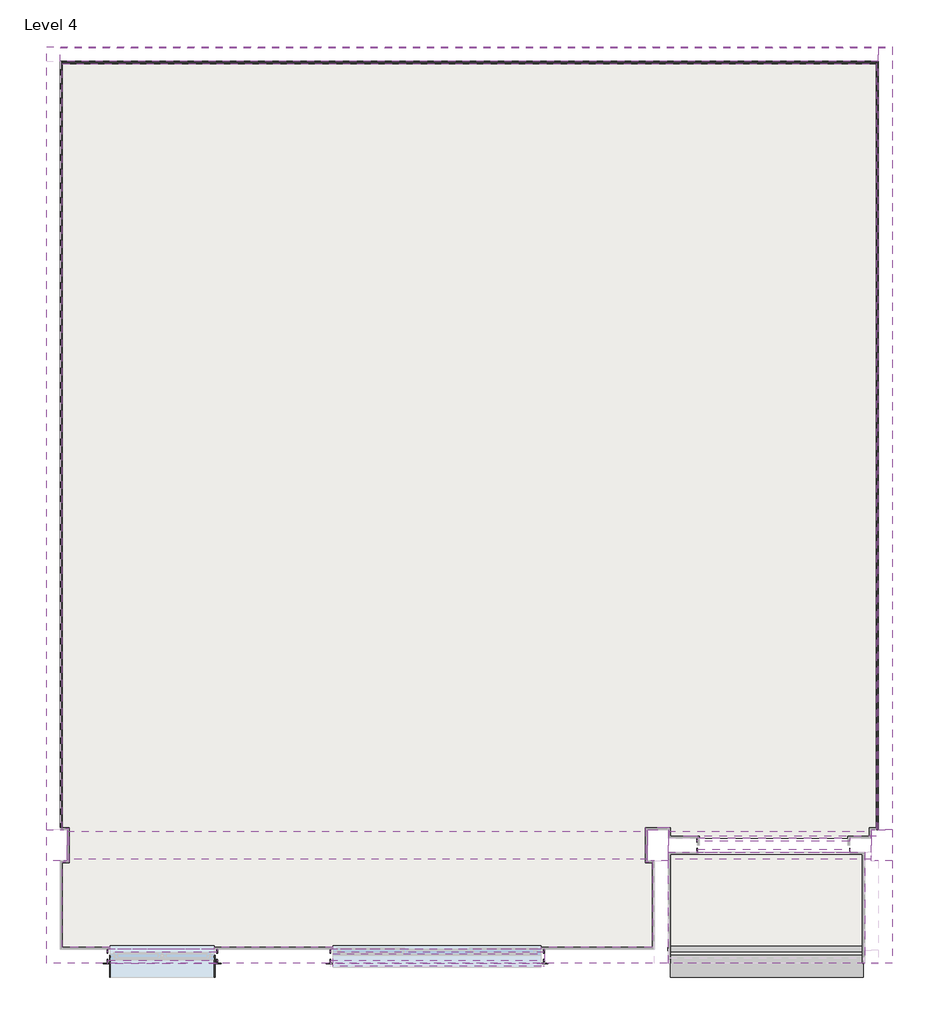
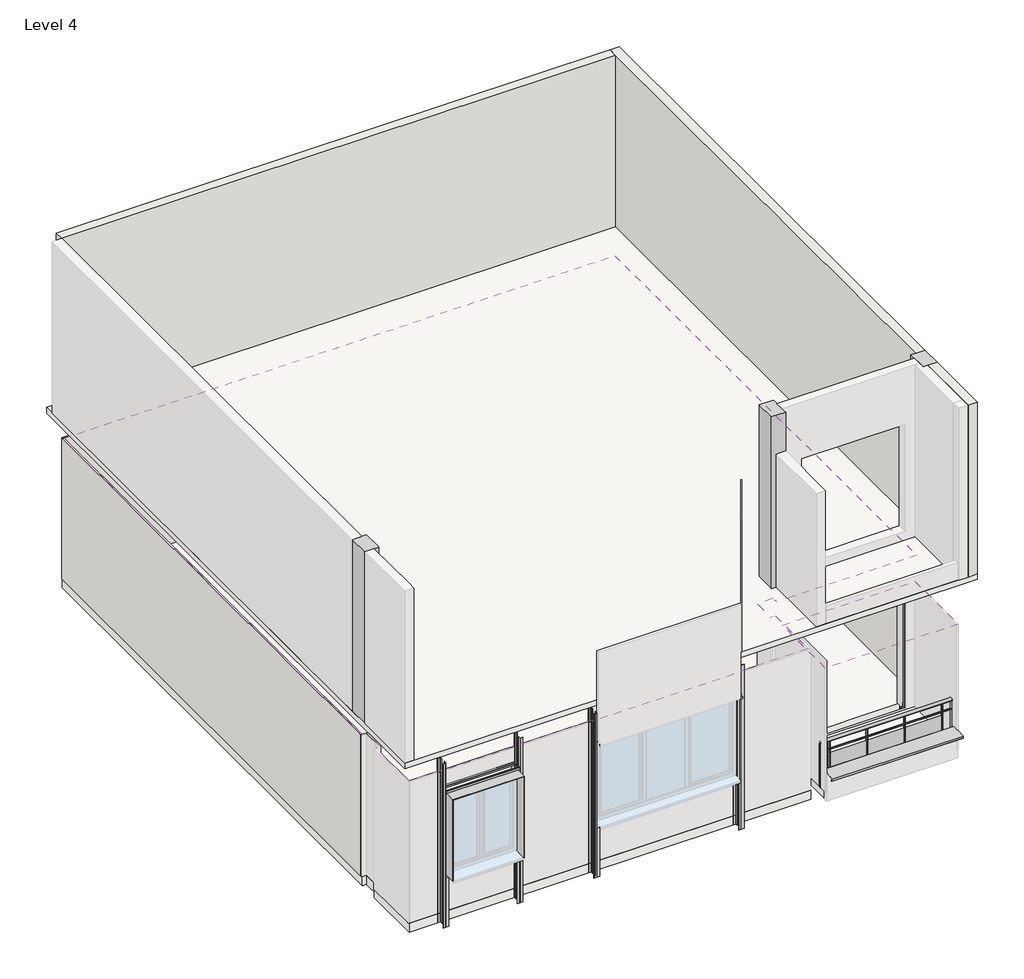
# One storey, part 2 of 2: 19 beams, 5 walls, 4 slabs, 3 columns, 2 coverings, 1 proxy, 1 railing.
"""IFC4 building model written with IfcOpenShell, lengths in millimetres."""

from ifc_helpers import new_model, si_unit, point, frame, origin, place, context, project, spatial, polyline, ellipse_curve, trimmed, outline, extrude, faceted_brep, transform, mapped, element, save
from ifc_brep_helpers import plane_surface, extruded_surface, advanced_brep
from components import bz1_l_profile_t01_17f12a1d, bz1_l_profile_t01_85f23635, bz1_l_profile_t01_c9825e95, bz1_l_profile_t01_ad5e237f, bz1_l_profile_t01_9d23476b, bz1_l_profile_t01_5d592bfc, bz1_wall_post_200_end_863f2b4e, bz1_wall_post_200_end_6934bf96, bz1_wall_post_200_end_fdf059dd, win_flashing1_win_flashing_b7f60e38

model = new_model("IFC4")

# Units and contexts
model_context = context("Model", 3, world=origin())
ifc_project = project(units=[si_unit("LENGTHUNIT", "METRE", prefix="MILLI")], contexts=[model_context])

# Site, building, storey
site = spatial("IfcSite", under=ifc_project)
building = spatial("IfcBuilding", under=site)
storey = spatial("IfcBuildingStorey", under=building, Name="Level 4", Elevation=12000.0)

# Beams
placement = place(None, origin())
bz1_l_profile_t01_shape = bz1_l_profile_t01_17f12a1d(model_context)
element("IfcBeam", 1, ObjectType="BZ1_L Profile : T01", at=placement, inside=storey, context=model_context, shape_type="MappedRepresentation", body=[
    mapped(bz1_l_profile_t01_shape, transform((2964.4333411, -5500.9647185, 14810.0), x_axis=(-1.0, 0.0, 0.0), y_axis=(0.0, 0.0, 1.0), z_axis=(0.0, 1.0, 0.0))),
])
bz1_l_profile_t01_2_shape = bz1_l_profile_t01_85f23635(model_context)
element("IfcBeam", 2, ObjectType="BZ1_L Profile : T01", at=placement, inside=storey, context=model_context, shape_type="MappedRepresentation", body=[
    mapped(bz1_l_profile_t01_2_shape, transform((-115.5666589, -5700.9647185, 14810.0), x_axis=(1.0, 0.0, 0.0), y_axis=(0.0, -1.0, 0.0), z_axis=(0.0, 0.0, -1.0))),
])
bz1_l_profile_t01_3_shape = bz1_l_profile_t01_c9825e95(model_context)
element("IfcBeam", 3, ObjectType="BZ1_L Profile : T01", at=placement, inside=storey, context=model_context, shape_type="MappedRepresentation", body=[
    mapped(bz1_l_profile_t01_3_shape, transform((-3330.5666589, -5700.9647185, 14810.0), x_axis=(1.0, 0.0, 0.0), y_axis=(0.0, -1.0, 0.0), z_axis=(0.0, 0.0, -1.0))),
])
bz1_l_profile_t01_4_shape = bz1_l_profile_t01_ad5e237f(model_context)
element("IfcBeam", 4, ObjectType="BZ1_L Profile : T01", at=placement, inside=storey, context=model_context, shape_type="MappedRepresentation", body=[
    mapped(bz1_l_profile_t01_4_shape, transform((-3330.5666589, -5500.9647185, 14810.0), x_axis=(1.0, 0.0, 0.0), y_axis=(0.0, -1.0, 0.0), z_axis=(0.0, 0.0, -1.0))),
])
bz1_l_profile_t01_5_shape = bz1_l_profile_t01_9d23476b(model_context)
element("IfcBeam", 5, ObjectType="BZ1_L Profile : T01", at=placement, inside=storey, context=model_context, shape_type="MappedRepresentation", body=[
    mapped(bz1_l_profile_t01_5_shape, transform((5174.4333411, -4100.9647185, 14405.0), x_axis=(1.0, 0.0, 0.0), y_axis=(0.0, -1.0, 0.0), z_axis=(0.0, 0.0, -1.0))),
])
bz1_l_profile_t01_6_shape = bz1_l_profile_t01_5d592bfc(model_context)
element("IfcBeam", 6, ObjectType="BZ1_L Profile : T01", at=placement, inside=storey, context=model_context, shape_type="MappedRepresentation", body=[
    mapped(bz1_l_profile_t01_6_shape, transform((5174.4333411, -3900.9647185, 14405.0), x_axis=(1.0, 0.0, 0.0), y_axis=(0.0, -1.0, 0.0), z_axis=(0.0, 0.0, -1.0))),
])
bz1_wall_post_200_end_shape = bz1_wall_post_200_end_863f2b4e(model_context)
element("IfcBeam", 7, ObjectType="BZ1_Wall post : 200 END", at=placement, inside=storey, context=model_context, shape_type="MappedRepresentation", body=[
    mapped(bz1_wall_post_200_end_shape, transform((-1750.5666589, -5600.9647185, 11800.0), x_axis=(1.0, 0.0, 0.0), y_axis=(0.0, 1.0, 0.0), z_axis=(0.0, 0.0, 1.0))),
])
element("IfcBeam", 8, ObjectType="BZ1_Wall post : 200 END", at=placement, inside=storey, context=model_context, shape_type="MappedRepresentation", body=[
    mapped(bz1_wall_post_200_end_shape, transform((-3330.5666589, -5600.9647185, 11800.0), x_axis=(-1.0, 0.0, 0.0), y_axis=(0.0, -1.0, 0.0), z_axis=(0.0, 0.0, 1.0))),
])
element("IfcBeam", 9, ObjectType="BZ1_Wall post : 200 END", at=placement, inside=storey, context=model_context, shape_type="MappedRepresentation", body=[
    mapped(bz1_wall_post_200_end_shape, transform((2964.4333411, -5600.9647185, 11800.0), x_axis=(1.0, 0.0, 0.0), y_axis=(0.0, 1.0, 0.0), z_axis=(0.0, 0.0, 1.0))),
])
element("IfcBeam", 10, ObjectType="BZ1_Wall post : 200 END", at=placement, inside=storey, context=model_context, shape_type="MappedRepresentation", body=[
    mapped(bz1_wall_post_200_end_shape, transform((-115.5666589, -5600.9647185, 11800.0), x_axis=(-1.0, 0.0, 0.0), y_axis=(0.0, -1.0, 0.0), z_axis=(0.0, 0.0, 1.0))),
])
element("IfcBeam", 11, ObjectType="BZ1_Wall post : 200 END", at=placement, inside=storey, context=model_context, shape_type="MappedRepresentation", body=[
    mapped(bz1_wall_post_200_end_shape, transform((5174.4333411, -4000.9647185, 12000.0), x_axis=(-1.0, 0.0, 0.0), y_axis=(0.0, -1.0, 0.0), z_axis=(0.0, 0.0, 1.0))),
])
element("IfcBeam", 12, ObjectType="BZ1_Wall post : 200 END", at=placement, inside=storey, context=model_context, shape_type="MappedRepresentation", body=[
    mapped(bz1_wall_post_200_end_shape, transform((7374.4333411, -4000.9647185, 11800.0), x_axis=(1.0, 0.0, 0.0), y_axis=(0.0, 1.0, 0.0), z_axis=(0.0, 0.0, 1.0))),
])
bz1_wall_post_200_end_2_shape = bz1_wall_post_200_end_6934bf96(model_context)
element("IfcBeam", 13, ObjectType="BZ1_Wall post : 200 END", at=placement, inside=storey, context=model_context, shape_type="MappedRepresentation", body=[
    mapped(bz1_wall_post_200_end_2_shape, transform((-115.5666589, -5600.9647185, 11800.0), x_axis=(1.0, 0.0, 0.0), y_axis=(0.0, 1.0, 0.0), z_axis=(0.0, 0.0, 1.0))),
])
element("IfcBeam", 14, ObjectType="BZ1_Wall post : 200 END", at=placement, inside=storey, context=model_context, shape_type="MappedRepresentation", body=[
    mapped(bz1_wall_post_200_end_2_shape, transform((-3330.5666589, -5600.9647185, 11800.0), x_axis=(1.0, 0.0, 0.0), y_axis=(0.0, 1.0, 0.0), z_axis=(0.0, 0.0, 1.0))),
])
bz1_wall_post_200_end_3_shape = bz1_wall_post_200_end_fdf059dd(model_context)
element("IfcBeam", 15, ObjectType="BZ1_Wall post : 200 END", at=placement, inside=storey, context=model_context, shape_type="MappedRepresentation", body=[
    mapped(bz1_wall_post_200_end_3_shape, transform((2964.4333411, -5600.9647185, 11800.0), x_axis=(-1.0, 0.0, 0.0), y_axis=(0.0, -1.0, 0.0), z_axis=(0.0, 0.0, 1.0))),
])
element("IfcBeam", 16, ObjectType="BZ1_Wall post : 200 END", at=placement, inside=storey, context=model_context, shape_type="MappedRepresentation", body=[
    mapped(bz1_wall_post_200_end_3_shape, transform((-1750.5666589, -5600.9647185, 11800.0), x_axis=(-1.0, 0.0, 0.0), y_axis=(0.0, -1.0, 0.0), z_axis=(0.0, 0.0, 1.0))),
])
element("IfcBeam", 17, ObjectType="M_Concrete-Rectangular Beam : 400 x 600mm", at=placement, inside=storey, context=model_context, shape_type="SweptSolid", body=[
    extrude(outline(polyline([(4459.4333411, -3800.9647185), (4459.4333411, -4200.9647185), (-3910.5666589, -4200.9647185), (-3910.5666589, -3800.9647185), (4459.4333411, -3800.9647185)])), frame((0.0, 0.0, 15200.0), z_axis=(0.0, 0.0, 1.0), x_axis=(1.0, 0.0, 0.0)), (0.0, 0.0, 1.0), 470.0),
])
element("IfcBeam", 18, ObjectType="M_Concrete-Rectangular Beam : 400 x 600mm", at=placement, inside=storey, context=model_context, shape_type="SweptSolid", body=[
    extrude(outline(polyline([(7689.4333411, -4200.9647185), (4759.4333411, -4200.9647185), (4759.4333411, -3800.9647185), (7689.4333411, -3800.9647185), (7689.4333411, -4200.9647185)])), frame((0.0, 0.0, 15200.0), z_axis=(0.0, 0.0, 1.0), x_axis=(1.0, 0.0, 0.0)), (0.0, 0.0, 1.0), 470.0),
])
win_flashing1_win_flashing_shape = win_flashing1_win_flashing_b7f60e38(model_context)
element("IfcBeam", 19, ObjectType="win-flashing1 : win-flashing", at=placement, inside=storey, context=model_context, shape_type="MappedRepresentation", body=[
    mapped(win_flashing1_win_flashing_shape, transform((0.0, 0.0, 0.0), x_axis=(1.0, 0.0, 0.0), y_axis=(0.0, 1.0, 0.0), z_axis=(0.0, 0.0, 1.0))),
])

# Proxy
element("IfcBuildingElementProxy", 20, Name="Wall Sweeps", at=placement, inside=storey, context=model_context, shape_type="SweptSolid", body=[
    extrude(outline(polyline([(-5906.4010883, 12409.8257), (-5584.774646, 12439.7589035), (-5584.774646, 12353.8282212), (-5584.774646, 12341.454394), (-5614.774646, 12341.454394), (-5614.774646, 12355.8282212), (-5612.774646, 12355.8282212), (-5612.774646, 12343.454394), (-5586.774646, 12343.454394), (-5586.774646, 12437.564124), (-5904.4010883, 12408.0031934), (-5904.4010883, 12363.454394), (-5864.4010883, 12363.454394), (-5864.4010883, 12341.454394), (-5866.4010883, 12341.454394), (-5866.4010883, 12361.454394), (-5906.4010883, 12361.454394), (-5906.4010883, 12409.8257)])), frame((4789.4333411, 0.0, 0.0), z_axis=(1.0, 0.0, 0.0), x_axis=(0.0, 1.0, 0.0)), (0.0, 0.0, 1.0), 2784.9947296),
])

# Columns
element("IfcColumn", 21, ObjectType="M_Concrete-Rectangular-Column : 300 x 450mm", at=placement, inside=storey, context=model_context, shape_type="Brep", body=[
    faceted_brep([(4759.4333411, -3775.9647185, 15800.0), (4759.4333411, -4225.9647185, 15800.0), (4559.4333411, -4225.9647185, 15800.0), (4459.4333411, -4225.9647185, 15800.0), (4459.4333411, -3775.9647185, 15800.0), (4759.4333411, -3775.9647185, 19670.0), (4759.4333411, -3800.9647185, 19670.0), (4759.4333411, -4200.9647185, 19670.0), (4759.4333411, -4225.9647185, 19670.0), (4759.4333411, -4225.9647185, 18800.0), (4459.4333411, -4225.9647185, 19670.0), (4459.4333411, -4200.9647185, 19670.0), (4459.4333411, -3800.9647185, 19670.0), (4459.4333411, -3775.9647185, 19670.0)], [[[0, 1, 2, 3, 4]], [[5, 6, 7, 8, 9, 1, 0]], [[8, 10, 3, 2, 1, 9]], [[10, 11, 12, 13, 4, 3]], [[13, 5, 0, 4]], [[5, 13, 12, 11, 10, 8, 7, 6]]]),
])
element("IfcColumn", 22, ObjectType="M_Concrete-Rectangular-Column : 300 x 450mm", at=placement, inside=storey, context=model_context, shape_type="Brep", body=[
    faceted_brep([(-3910.5666589, -3775.9647185, 15800.0), (-3910.5666589, -4225.9647185, 15800.0), (-4010.5666589, -4225.9647185, 15800.0), (-4210.5666589, -4225.9647185, 15800.0), (-4210.5666589, -3775.9647185, 15800.0), (-4010.5666589, -3775.9647185, 15800.0), (-3910.5666589, -3775.9647185, 19670.0), (-3910.5666589, -3800.9647185, 19670.0), (-3910.5666589, -4200.9647185, 19670.0), (-3910.5666589, -4225.9647185, 19670.0), (-4010.5666589, -4225.9647185, 19670.0), (-4210.5666589, -4225.9647185, 19670.0), (-4210.5666589, -3775.9647185, 19670.0), (-4010.5666589, -3775.9647185, 19670.0)], [[[0, 1, 2, 3, 4, 5]], [[6, 7, 8, 9, 1, 0]], [[9, 10, 11, 3, 2, 1]], [[11, 12, 4, 3]], [[12, 13, 6, 0, 5, 4]], [[6, 13, 12, 11, 10, 9, 8, 7]]]),
])
element("IfcColumn", 23, ObjectType="M_Concrete-Rectangular-Column : 300 x 450mm", at=placement, inside=storey, context=model_context, shape_type="Brep", body=[
    faceted_brep([(7989.4333411, -3775.9647185, 15800.0), (7989.4333411, -4225.9647185, 15800.0), (7789.4333411, -4225.9647185, 15800.0), (7689.4333411, -4225.9647185, 15800.0), (7689.4333411, -4100.9647185, 15800.0), (7689.4333411, -3900.9647185, 15800.0), (7689.4333411, -3775.9647185, 15800.0), (7789.4333411, -3775.9647185, 15800.0), (7989.4333411, -3775.9647185, 19670.0), (7989.4333411, -4225.9647185, 19670.0), (7789.4333411, -4225.9647185, 19670.0), (7689.4333411, -4225.9647185, 19670.0), (7689.4333411, -4200.9647185, 19670.0), (7689.4333411, -4100.9647185, 19670.0), (7689.4333411, -3900.9647185, 19670.0), (7689.4333411, -3800.9647185, 19670.0), (7689.4333411, -3775.9647185, 19670.0), (7789.4333411, -3775.9647185, 19670.0)], [[[0, 1, 2, 3, 4, 5, 6, 7]], [[8, 9, 1, 0]], [[9, 10, 11, 3, 2, 1]], [[11, 12, 13, 14, 15, 16, 6, 5, 4, 3]], [[16, 17, 8, 0, 7, 6]], [[8, 17, 16, 15, 14, 13, 12, 11, 10, 9]]]),
])

# Coverings
element("IfcCovering", 24, ObjectType="BZ1_FNCH_KANAF_2CM", at=placement, inside=storey, context=model_context, shape_type="SweptSolid", body=[
    extrude(outline(polyline([(4759.4333411, -5700.9647185), (4759.4333411, -4100.9647185), (7589.4333411, -4100.9647185), (7589.4333411, -5700.9647185), (4759.4333411, -5700.9647185)])), frame((0.0, 0.0, 14800.0), z_axis=(0.0, 0.0, 1.0), x_axis=(1.0, 0.0, 0.0)), (0.0, 0.0, 1.0), 20.0),
])
element("IfcCovering", 25, ObjectType="BZ1_FNCH_KANAF_2CM", at=placement, inside=storey, context=model_context, shape_type="SweptSolid", body=[
    extrude(outline(polyline([(-1790.5666589, -5470.9647185), (-1790.5666589, -5500.9647185), (-3290.5666589, -5500.9647185), (-3290.5666589, -5470.9647185), (-3980.5666589, -5470.9647185), (-3980.5666589, -4240.9647185), (-3880.5666589, -4240.9647185), (-3880.5666589, -3760.9647185), (-3980.5666589, -3760.9647185), (-3980.5666589, 7269.0352815), (7759.4333411, 7269.0352815), (7759.4333411, -3870.9647185), (5174.4333411, -3870.9647185), (4774.4333411, -3870.9647185), (4774.4333411, -3745.9647185), (4429.4333411, -3745.9647185), (4429.4333411, -4240.9647185), (4529.4333411, -4240.9647185), (4529.4333411, -5470.9647185), (2922.4333411, -5470.9647185), (2922.4333411, -5500.9647185), (-75.5666589, -5500.9647185), (-75.5666589, -5470.9647185), (-1790.5666589, -5470.9647185)])), frame((0.0, 0.0, 15180.0), z_axis=(0.0, 0.0, 1.0), x_axis=(1.0, 0.0, 0.0)), (0.0, 0.0, 1.0), 20.0),
])

# Railing
element("IfcRailing", 26, ObjectType="Glass Panel - Bottom Fill", at=placement, inside=storey, context=model_context, shape_type="SolidModel", body=[
    advanced_brep(
    [(7559.4333411, -5537.8554837, 13000.0), (7559.4333411, -5457.8554837, 13000.0), (4759.4333411, -5537.8554837, 13000.0), (4759.4333411, -5457.8554837, 13000.0)],
    [
        (0, 1, ellipse_curve(frame((7559.4333411, -5497.8554837, 13000.0), z_axis=(1.0, 0.0, 0.0), x_axis=(0.0, 1.0, 0.0)), 40.0, 30.0)),
        (1, 0, ellipse_curve(frame((7559.4333411, -5497.8554837, 13000.0), z_axis=(1.0, 0.0, 0.0), x_axis=(0.0, 1.0, 0.0)), 40.0, 30.0)),
        (2, 3, ellipse_curve(frame((4759.4333411, -5497.8554837, 13000.0), z_axis=(-1.0, 0.0, 0.0), x_axis=(0.0, 1.0, 0.0)), 40.0, 30.0)),
        (3, 2, ellipse_curve(frame((4759.4333411, -5497.8554837, 13000.0), z_axis=(-1.0, 0.0, 0.0), x_axis=(0.0, 1.0, 0.0)), 40.0, 30.0)),
        (0, 2),
        (3, 1),
    ],
    [
        plane_surface(frame((7559.4333411, -5497.8554837, 13000.0), z_axis=(1.0, 0.0, 0.0), x_axis=(0.0, -1.0, 0.0))),
        plane_surface(frame((4759.4333411, -5497.8554837, 13000.0), z_axis=(-1.0, 0.0, 0.0), x_axis=(0.0, -1.0, 0.0))),
        extruded_surface(trimmed(ellipse_curve(frame((4759.4333411, -5497.8554837, 13000.0), z_axis=(1.0, 0.0, 0.0), x_axis=(0.0, 1.0, 0.0)), 40.0, 30.0), [point((4759.4333411, -5537.8554837, 13000.0))], [point((4759.4333411, -5457.8554837, 13000.0))], True, "CARTESIAN"), (2800.0, 0.0, 0.0), 2800.0),
        extruded_surface(trimmed(ellipse_curve(frame((4759.4333411, -5497.8554837, 13000.0), z_axis=(1.0, 0.0, 0.0), x_axis=(0.0, 1.0, 0.0)), 40.0, 30.0), [point((4759.4333411, -5457.8554837, 13000.0))], [point((4759.4333411, -5537.8554837, 13000.0))], True, "CARTESIAN"), (2800.0, 0.0, 0.0), 2800.0),
    ],
    [
        (0, [[1, 2]]),
        (1, [[3, 4]]),
        (2, [[-1, 5, -4, 6]]),
        (3, [[-2, -6, -3, -5]]),
    ],
),
    extrude(outline(polyline([(7559.4333411, -5488.4647185), (7559.4333411, -5508.4647185), (4759.4333411, -5508.4647185), (4759.4333411, -5488.4647185), (7559.4333411, -5488.4647185)])), frame((0.0, 0.0, 12780.0), z_axis=(0.0, 0.0, 1.0), x_axis=(1.0, 0.0, 0.0)), (0.0, 0.0, 1.0), 20.0),
    extrude(outline(polyline([(4965.4333411, -5523.4647185), (4953.4333411, -5523.4647185), (4953.4333411, -5473.4647185), (4965.4333411, -5473.4647185), (4965.4333411, -5523.4647185)])), frame((0.0, 0.0, 12000.0), z_axis=(0.0, 0.0, 1.0), x_axis=(1.0, 0.0, 0.0)), (0.0, 0.0, 1.0), 970.0),
    extrude(outline(polyline([(5759.4333411, -5496.7399084), (4959.4333411, -5496.7399084), (4959.4333411, -5491.7399084), (5759.4333411, -5491.7399084), (5759.4333411, -5496.7399084)])), frame((0.0, 0.0, 12100.0), z_axis=(0.0, 0.0, 1.0), x_axis=(1.0, 0.0, 0.0)), (0.0, 0.0, 1.0), 600.0),
    extrude(outline(polyline([(5765.4333411, -5523.4647185), (5753.4333411, -5523.4647185), (5753.4333411, -5473.4647185), (5765.4333411, -5473.4647185), (5765.4333411, -5523.4647185)])), frame((0.0, 0.0, 12000.0), z_axis=(0.0, 0.0, 1.0), x_axis=(1.0, 0.0, 0.0)), (0.0, 0.0, 1.0), 970.0),
    extrude(outline(polyline([(6559.4333411, -5496.7399084), (5759.4333411, -5496.7399084), (5759.4333411, -5491.7399084), (6559.4333411, -5491.7399084), (6559.4333411, -5496.7399084)])), frame((0.0, 0.0, 12100.0), z_axis=(0.0, 0.0, 1.0), x_axis=(1.0, 0.0, 0.0)), (0.0, 0.0, 1.0), 600.0),
    extrude(outline(polyline([(6565.4333411, -5523.4647185), (6553.4333411, -5523.4647185), (6553.4333411, -5473.4647185), (6565.4333411, -5473.4647185), (6565.4333411, -5523.4647185)])), frame((0.0, 0.0, 12000.0), z_axis=(0.0, 0.0, 1.0), x_axis=(1.0, 0.0, 0.0)), (0.0, 0.0, 1.0), 970.0),
    extrude(outline(polyline([(7359.4333411, -5496.7399084), (6559.4333411, -5496.7399084), (6559.4333411, -5491.7399084), (7359.4333411, -5491.7399084), (7359.4333411, -5496.7399084)])), frame((0.0, 0.0, 12100.0), z_axis=(0.0, 0.0, 1.0), x_axis=(1.0, 0.0, 0.0)), (0.0, 0.0, 1.0), 600.0),
    extrude(outline(polyline([(7365.4333411, -5523.4647185), (7353.4333411, -5523.4647185), (7353.4333411, -5473.4647185), (7365.4333411, -5473.4647185), (7365.4333411, -5523.4647185)])), frame((0.0, 0.0, 12000.0), z_axis=(0.0, 0.0, 1.0), x_axis=(1.0, 0.0, 0.0)), (0.0, 0.0, 1.0), 970.0),
    extrude(outline(polyline([(4767.4333411, -5523.4647185), (4755.4333411, -5523.4647185), (4755.4333411, -5473.4647185), (4767.4333411, -5473.4647185), (4767.4333411, -5523.4647185)])), frame((0.0, 0.0, 12000.0), z_axis=(0.0, 0.0, 1.0), x_axis=(1.0, 0.0, 0.0)), (0.0, 0.0, 1.0), 970.0),
    extrude(outline(polyline([(7563.4333411, -5523.4647185), (7551.4333411, -5523.4647185), (7551.4333411, -5473.4647185), (7563.4333411, -5473.4647185), (7563.4333411, -5523.4647185)])), frame((0.0, 0.0, 12000.0), z_axis=(0.0, 0.0, 1.0), x_axis=(1.0, 0.0, 0.0)), (0.0, 0.0, 1.0), 970.0),
])

# Slabs
element("IfcSlab", 27, ObjectType="BZ1_Slab_Concrete_metaldeck-130", at=placement, inside=storey, context=model_context, shape_type="Brep", body=[
    faceted_brep([(7989.4333411, -5700.9647185, 15670.0), (-4210.5666589, -5700.9647185, 15670.0), (-4210.5666589, 7514.0352815, 15670.0), (7989.4333411, 7514.0352815, 15670.0), (7989.4333411, -5700.9647185, 15800.0), (7989.4333411, -4225.9647185, 15800.0), (7989.4333411, -3775.9647185, 15800.0), (7989.4333411, 7514.0352815, 15800.0), (-4210.5666589, 7514.0352815, 15800.0), (-4210.5666589, -3775.9647185, 15800.0), (-4210.5666589, -4225.9647185, 15800.0), (-4210.5666589, -5700.9647185, 15800.0)], [[[0, 1, 2, 3]], [[4, 5, 6, 7, 8, 9, 10, 11]], [[1, 0, 4, 11]], [[2, 1, 11, 10, 9, 8]], [[3, 2, 8, 7]], [[0, 3, 7, 6, 5, 4]]]),
])
element("IfcSlab", 28, ObjectType="BZ1_FNSH_White stucoo_3cm", at=placement, inside=storey, context=model_context, shape_type="Brep", body=[
    faceted_brep([(-80.2322612, -5567.6133875, 14770.0), (2969.4333411, -5567.6133875, 14770.0), (2969.4333411, -5743.4647185, 14770.0), (2927.4333411, -5743.4647185, 14770.0), (-80.2322612, -5743.4647185, 14770.0), (-80.2322612, -5700.9799478, 14770.0), (-80.2322612, -5567.6133875, 14810.0), (-80.2322612, -5700.9799478, 14810.0), (-80.2322612, -5743.4647185, 14810.0), (2927.4333411, -5743.4647185, 14810.0), (2969.4333411, -5743.4647185, 14810.0), (2969.4333411, -5567.6133875, 14810.0)], [[[0, 1, 2, 3, 4, 5]], [[6, 7, 8, 9, 10, 11]], [[1, 0, 6, 11]], [[2, 1, 11, 10]], [[4, 3, 2, 10, 9, 8]], [[0, 5, 4, 8, 7, 6]]]),
])
element("IfcSlab", 29, ObjectType="BZ1_FNSH_Ceramic Tile white_20mm", at=placement, inside=storey, context=model_context, shape_type="SweptSolid", body=[
    extrude(outline(polyline([(7689.4333411, -3900.9647185), (4759.4333411, -3900.9647185), (4759.4333411, -3775.9647185), (4459.4333411, -3775.9647185), (4459.4333411, -4225.9647185), (4559.4333411, -4225.9647185), (4559.4333411, -5500.9647185), (-4000.5666589, -5500.9647185), (-4000.5666589, -4225.9647185), (-3910.5666589, -4225.9647185), (-3910.5666589, -3775.9647185), (-4000.5666589, -3775.9647185), (-4000.5666589, 7299.0352815), (7789.4333411, 7299.0352815), (7789.4333411, -3775.9647185), (7689.4333411, -3775.9647185), (7689.4333411, -3900.9647185)])), frame((0.0, 0.0, 11800.0), z_axis=(0.0, 0.0, 1.0), x_axis=(1.0, 0.0, 0.0)), (0.0, 0.0, 1.0), 200.0),
])
element("IfcSlab", 30, ObjectType="BZ1_FNSH_Ceramic Tile blue_20mm", at=placement, inside=storey, context=model_context, shape_type="SweptSolid", body=[
    extrude(outline(polyline([(4789.4333411, -5620.3554823), (4789.4333411, -4130.9647185), (7559.4333411, -4130.9647185), (7559.4333411, -5620.3554823), (4789.4333411, -5620.3554823)])), frame((0.0, 0.0, 11800.0), z_axis=(0.0, 0.0, 1.0), x_axis=(1.0, 0.0, 0.0)), (0.0, 0.0, 1.0), 200.0),
])

# Walls
element("IfcWall", 31, ObjectType="BZ1_fnsh_gypsun3cm", at=placement, inside=storey, context=model_context, shape_type="SweptSolid", body=[
    extrude(outline(polyline([(-3980.5666589, 7299.0352815), (-3980.5666589, -3745.9647185), (-4010.5666589, -3745.9647185), (-4010.5666589, 7299.0352815), (-3980.5666589, 7299.0352815)])), frame((0.0, 0.0, 12000.0), z_axis=(0.0, 0.0, 1.0), x_axis=(1.0, 0.0, 0.0)), (0.0, 0.0, 1.0), 3180.0),
])
element("IfcWall", 32, ObjectType="BZ1_fnsh_gypsun3cm", at=placement, inside=storey, context=model_context, shape_type="SweptSolid", body=[
    extrude(outline(polyline([(7759.4333411, 7269.0352815), (-4010.5666589, 7269.0352815), (-4010.5666589, 7299.0352815), (7759.4333411, 7299.0352815), (7759.4333411, 7269.0352815)])), frame((0.0, 0.0, 12000.0), z_axis=(0.0, 0.0, 1.0), x_axis=(1.0, 0.0, 0.0)), (0.0, 0.0, 1.0), 3180.0),
])
element("IfcWall", 33, ObjectType="BZ1_fnsh_gypsun3cm", at=placement, inside=storey, context=model_context, shape_type="Brep", body=[
    faceted_brep([(7759.4333411, 7299.0352815, 15200.0), (7759.4333411, 7299.0352815, 15180.0), (7759.4333411, 7299.0352815, 12000.0), (7759.4333411, 7269.0352815, 12000.0), (7759.4333411, -3745.9647185, 12000.0), (7759.4333411, -3775.9647185, 12000.0), (7759.4333411, -3775.9647185, 15184.6661592), (7759.4333411, -3775.9647185, 15200.0), (7789.4333411, 7299.0352815, 12000.0), (7789.4333411, 7299.0352815, 15200.0), (7789.4333411, -3775.9647185, 15200.0), (7789.4333411, -3775.9647185, 12000.0)], [[[0, 1, 2, 3, 4, 5, 6, 7]], [[8, 9, 10, 11]], [[5, 4, 3, 2, 8, 11]], [[0, 7, 10, 9]], [[7, 6, 5, 11, 10]], [[0, 9, 8, 2, 1]]]),
])
element("IfcWall", 34, ObjectType="BZ1-Core-Block-20cm", at=placement, inside=storey, context=model_context, shape_type="Brep", body=[
    faceted_brep([(7989.4333411, 7499.0352815, 15800.0), (7989.4333411, 7499.0352815, 19670.0), (7989.4333411, -3775.9647185, 19670.0), (7989.4333411, -3775.9647185, 15800.0), (7789.4333411, 7499.0352815, 19670.0), (7789.4333411, 7499.0352815, 15800.0), (7789.4333411, 7299.0352815, 15800.0), (7789.4333411, -3775.9647185, 15800.0), (7789.4333411, -3775.9647185, 19670.0), (7789.4333411, 7299.0352815, 19670.0)], [[[0, 1, 2, 3]], [[4, 5, 6, 7, 8, 9]], [[5, 0, 3, 7, 6]], [[1, 4, 9, 8, 2]], [[3, 2, 8, 7]], [[0, 5, 4, 1]]]),
    faceted_brep([(7989.4333411, -5715.9647185, 19670.0), (7989.4333411, -5715.9647185, 15800.0), (7989.4333411, -4225.9647185, 15800.0), (7989.4333411, -4225.9647185, 19670.0), (7789.4333411, -5715.9647185, 15800.0), (7789.4333411, -5715.9647185, 19670.0), (7789.4333411, -5515.9647185, 19670.0), (7789.4333411, -4225.9647185, 19670.0), (7789.4333411, -4225.9647185, 15800.0), (7789.4333411, -5515.9647185, 15800.0)], [[[0, 1, 2, 3]], [[4, 5, 6, 7, 8, 9]], [[1, 4, 9, 8, 2]], [[5, 0, 3, 7, 6]], [[3, 2, 8, 7]], [[1, 0, 5, 4]]]),
])
element("IfcWall", 35, ObjectType="BZ1-Core-Block-20cm", at=placement, inside=storey, context=model_context, shape_type="SweptSolid", body=[
    extrude(outline(polyline([(-4010.5666589, 7499.0352815), (7789.4333411, 7499.0352815), (7789.4333411, 7299.0352815), (-4010.5666589, 7299.0352815), (-4010.5666589, 7499.0352815)])), frame((0.0, 0.0, 15800.0), z_axis=(0.0, 0.0, 1.0), x_axis=(1.0, 0.0, 0.0)), (0.0, 0.0, 1.0), 3870.0),
])

save(model, "model.ifc")
